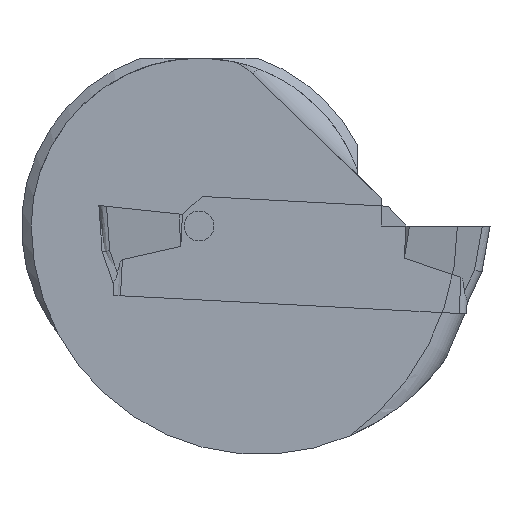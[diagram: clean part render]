
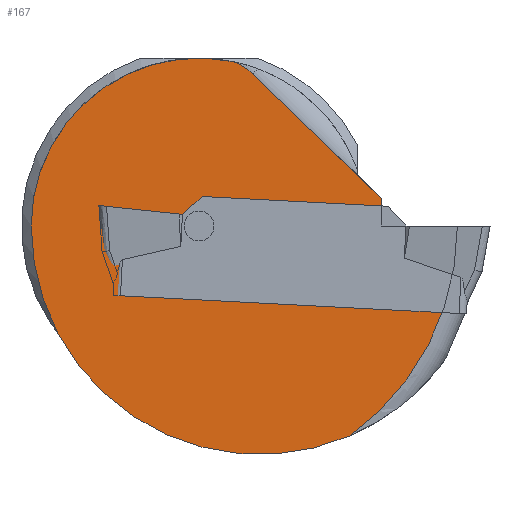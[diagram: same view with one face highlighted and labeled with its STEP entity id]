
A CAD part, left-side view. The second image highlights one B-rep face of the part: STEP entity #167.
In plain terms, the highlighted planar face has unit normal (-1, 0, 0).
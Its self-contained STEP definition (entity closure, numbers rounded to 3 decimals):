
#122=FACE_BOUND('',#298,.T.);
#123=FACE_BOUND('',#299,.T.);
#135=PLANE('',#1175);
#167=ADVANCED_FACE('',(#122,#123),#135,.T.);
#298=EDGE_LOOP('',(#581,#582,#583,#584,#585,#586,#587));
#299=EDGE_LOOP('',(#588));
#393=LINE('',#1624,#480);
#394=LINE('',#1626,#481);
#395=LINE('',#1628,#482);
#480=VECTOR('',#1297,1.);
#481=VECTOR('',#1298,1.);
#482=VECTOR('',#1299,1.);
#581=ORIENTED_EDGE('',*,*,#989,.T.);
#582=ORIENTED_EDGE('',*,*,#972,.F.);
#583=ORIENTED_EDGE('',*,*,#990,.T.);
#584=ORIENTED_EDGE('',*,*,#991,.T.);
#585=ORIENTED_EDGE('',*,*,#992,.T.);
#586=ORIENTED_EDGE('',*,*,#993,.T.);
#587=ORIENTED_EDGE('',*,*,#994,.T.);
#588=ORIENTED_EDGE('',*,*,#995,.T.);
#869=VERTEX_POINT('',#1560);
#870=VERTEX_POINT('',#1561);
#885=VERTEX_POINT('',#1619);
#886=VERTEX_POINT('',#1621);
#887=VERTEX_POINT('',#1623);
#888=VERTEX_POINT('',#1625);
#889=VERTEX_POINT('',#1627);
#890=VERTEX_POINT('',#1630);
#972=EDGE_CURVE('',#869,#870,#1125,.T.);
#989=EDGE_CURVE('',#885,#870,#1132,.T.);
#990=EDGE_CURVE('',#869,#886,#1133,.T.);
#991=EDGE_CURVE('',#886,#887,#1134,.T.);
#992=EDGE_CURVE('',#887,#888,#393,.T.);
#993=EDGE_CURVE('',#888,#889,#394,.T.);
#994=EDGE_CURVE('',#889,#885,#395,.T.);
#995=EDGE_CURVE('',#890,#890,#1135,.T.);
#1125=CIRCLE('',#1162,9.);
#1132=CIRCLE('',#1171,3.);
#1133=CIRCLE('',#1172,12.25);
#1134=CIRCLE('',#1173,13.85);
#1135=CIRCLE('',#1174,0.8);
#1162=AXIS2_PLACEMENT_3D('',#1559,#1265,#1266);
#1171=AXIS2_PLACEMENT_3D('',#1618,#1291,#1292);
#1172=AXIS2_PLACEMENT_3D('',#1620,#1293,#1294);
#1173=AXIS2_PLACEMENT_3D('',#1622,#1295,#1296);
#1174=AXIS2_PLACEMENT_3D('',#1629,#1300,#1301);
#1175=AXIS2_PLACEMENT_3D('',#1631,#1302,#1303);
#1265=DIRECTION('',(1.,0.,0.));
#1266=DIRECTION('',(0.,0.,1.));
#1291=DIRECTION('',(-1.,0.,0.));
#1292=DIRECTION('',(0.,-1.,0.));
#1293=DIRECTION('',(-1.,0.,0.));
#1294=DIRECTION('',(0.,0.,1.));
#1295=DIRECTION('',(-1.,0.,0.));
#1296=DIRECTION('',(0.,0.,1.));
#1297=DIRECTION('',(0.,1.,0.));
#1298=DIRECTION('',(0.,0.,1.));
#1299=DIRECTION('',(0.,0.719,0.695));
#1300=DIRECTION('',(1.,0.,0.));
#1301=DIRECTION('',(0.,0.,1.));
#1302=DIRECTION('',(-1.,0.,0.));
#1303=DIRECTION('',(0.,0.,1.));
#1559=CARTESIAN_POINT('',(0.35,15.6,0.));
#1560=CARTESIAN_POINT('',(0.35,24.6,0.));
#1561=CARTESIAN_POINT('',(0.35,13.773,8.813));
#1618=CARTESIAN_POINT('',(0.35,14.817,6.));
#1619=CARTESIAN_POINT('',(0.35,12.733,8.158));
#1620=CARTESIAN_POINT('',(0.35,12.35,0.));
#1621=CARTESIAN_POINT('',(0.35,7.55,-11.271));
#1622=CARTESIAN_POINT('',(0.35,15.6,0.));
#1623=CARTESIAN_POINT('',(0.35,1.75,0.));
#1624=CARTESIAN_POINT('',(0.35,0.,0.));
#1625=CARTESIAN_POINT('',(0.35,5.8,0.));
#1626=CARTESIAN_POINT('',(0.35,5.8,0.963));
#1627=CARTESIAN_POINT('',(0.35,5.8,1.463));
#1628=CARTESIAN_POINT('',(0.35,5.8,1.463));
#1629=CARTESIAN_POINT('',(0.35,15.6,0.));
#1630=CARTESIAN_POINT('',(0.35,15.6,0.8));
#1631=CARTESIAN_POINT('',(0.35,0.6,0.));
